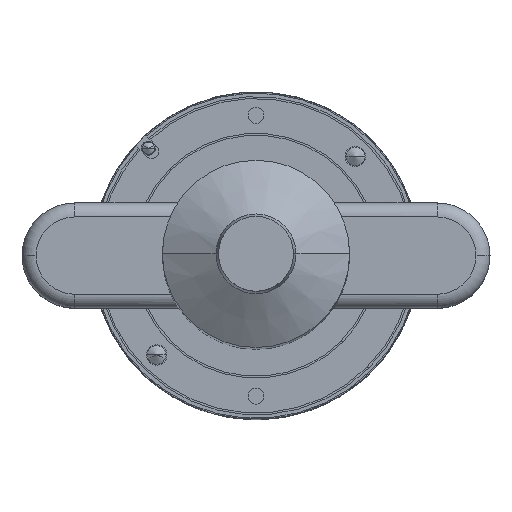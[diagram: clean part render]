
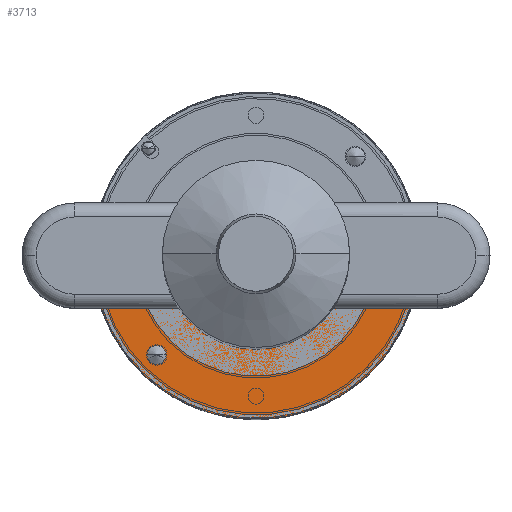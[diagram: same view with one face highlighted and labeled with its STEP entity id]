
A CAD part, top view. The second image highlights one B-rep face of the part: STEP entity #3713.
In plain terms, the highlighted planar face has unit normal (0, 0, 1).
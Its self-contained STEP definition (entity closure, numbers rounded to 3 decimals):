
#83 = PLANE ( 'NONE',  #24372 ) ;
#84 = CARTESIAN_POINT ( 'NONE',  ( 0., 40., 32. ) ) ;
#85 = DIRECTION ( 'NONE',  ( 0., 0., -1. ) ) ;
#86 = DIRECTION ( 'NONE',  ( -1., 0., 0. ) ) ;
#3540 = LINE ( 'NONE', #12882, #3541 ) ;
#3541 = VECTOR ( 'NONE', #12883, 1000. ) ;
#3560 = CIRCLE ( 'NONE', #25810, 4. ) ;
#3585 = LINE ( 'NONE', #12960, #3587 ) ;
#3587 = VECTOR ( 'NONE', #12961, 1000. ) ;
#3598 = CIRCLE ( 'NONE', #25820, 4. ) ;
#3664 = CIRCLE ( 'NONE', #25836, 40. ) ;
#3674 = CIRCLE ( 'NONE', #25839, 70. ) ;
#3713 = ADVANCED_FACE ( 'NONE', ( #26055, #26100 ), #83, .F. ) ;
#4674 = VERTEX_POINT ( 'NONE', #6927 ) ;
#5572 = EDGE_LOOP ( 'NONE', ( #7898, #7902, #7951, #7942 ) ) ;
#6927 = CARTESIAN_POINT ( 'NONE',  ( -46.426, -42.426, 32. ) ) ;
#7872 = ORIENTED_EDGE ( 'NONE', *, *, #11274, .F. ) ;
#7891 = ORIENTED_EDGE ( 'NONE', *, *, #11231, .F. ) ;
#7898 = ORIENTED_EDGE ( 'NONE', *, *, #11335, .F. ) ;
#7902 = ORIENTED_EDGE ( 'NONE', *, *, #11213, .T. ) ;
#7942 = ORIENTED_EDGE ( 'NONE', *, *, #11261, .T. ) ;
#7951 = ORIENTED_EDGE ( 'NONE', *, *, #11331, .T. ) ;
#11213 = EDGE_CURVE ( 'NONE', #25174, #25228, #3540, .T. ) ;
#11231 = EDGE_CURVE ( 'NONE', #4674, #25045, #3560, .T. ) ;
#11261 = EDGE_CURVE ( 'NONE', #25270, #25243, #3585, .T. ) ;
#11274 = EDGE_CURVE ( 'NONE', #25045, #4674, #3598, .T. ) ;
#11331 = EDGE_CURVE ( 'NONE', #25228, #25270, #3664, .T. ) ;
#11335 = EDGE_CURVE ( 'NONE', #25174, #25243, #3674, .T. ) ;
#12882 = CARTESIAN_POINT ( 'NONE',  ( 0., -22.5, 32. ) ) ;
#12883 = DIRECTION ( 'NONE',  ( -1., 0., 0. ) ) ;
#12915 = CARTESIAN_POINT ( 'NONE',  ( -42.426, -42.426, 32. ) ) ;
#12916 = DIRECTION ( 'NONE',  ( 0., 0., 1. ) ) ;
#12917 = DIRECTION ( 'NONE',  ( -1., 0., 0. ) ) ;
#12960 = CARTESIAN_POINT ( 'NONE',  ( 0., -22.5, 32. ) ) ;
#12961 = DIRECTION ( 'NONE',  ( -1., 0., 0. ) ) ;
#12973 = CARTESIAN_POINT ( 'NONE',  ( -42.426, -42.426, 32. ) ) ;
#12974 = DIRECTION ( 'NONE',  ( 0., 0., 1. ) ) ;
#12975 = DIRECTION ( 'NONE',  ( -1., 0., 0. ) ) ;
#13063 = CARTESIAN_POINT ( 'NONE',  ( 0., 0., 32. ) ) ;
#13064 = DIRECTION ( 'NONE',  ( 0., 0., -1. ) ) ;
#13065 = DIRECTION ( 'NONE',  ( -1., 0., 0. ) ) ;
#13074 = CARTESIAN_POINT ( 'NONE',  ( 0., 0., 32. ) ) ;
#13075 = DIRECTION ( 'NONE',  ( 0., 0., -1. ) ) ;
#13076 = DIRECTION ( 'NONE',  ( -1., 0., 0. ) ) ;
#19684 = CARTESIAN_POINT ( 'NONE',  ( -38.426, -42.426, 32. ) ) ;
#19813 = CARTESIAN_POINT ( 'NONE',  ( 66.285, -22.5, 32. ) ) ;
#19867 = CARTESIAN_POINT ( 'NONE',  ( 33.072, -22.5, 32. ) ) ;
#19882 = CARTESIAN_POINT ( 'NONE',  ( -66.285, -22.5, 32. ) ) ;
#19909 = CARTESIAN_POINT ( 'NONE',  ( -33.072, -22.5, 32. ) ) ;
#20779 = EDGE_LOOP ( 'NONE', ( #7891, #7872 ) ) ;
#24372 = AXIS2_PLACEMENT_3D ( 'NONE', #84, #85, #86 ) ;
#25045 = VERTEX_POINT ( 'NONE', #19684 ) ;
#25174 = VERTEX_POINT ( 'NONE', #19813 ) ;
#25228 = VERTEX_POINT ( 'NONE', #19867 ) ;
#25243 = VERTEX_POINT ( 'NONE', #19882 ) ;
#25270 = VERTEX_POINT ( 'NONE', #19909 ) ;
#25810 = AXIS2_PLACEMENT_3D ( 'NONE', #12915, #12916, #12917 ) ;
#25820 = AXIS2_PLACEMENT_3D ( 'NONE', #12973, #12974, #12975 ) ;
#25836 = AXIS2_PLACEMENT_3D ( 'NONE', #13063, #13064, #13065 ) ;
#25839 = AXIS2_PLACEMENT_3D ( 'NONE', #13074, #13075, #13076 ) ;
#26055 = FACE_OUTER_BOUND ( 'NONE', #5572, .T. ) ;
#26100 = FACE_BOUND ( 'NONE', #20779, .T. ) ;
